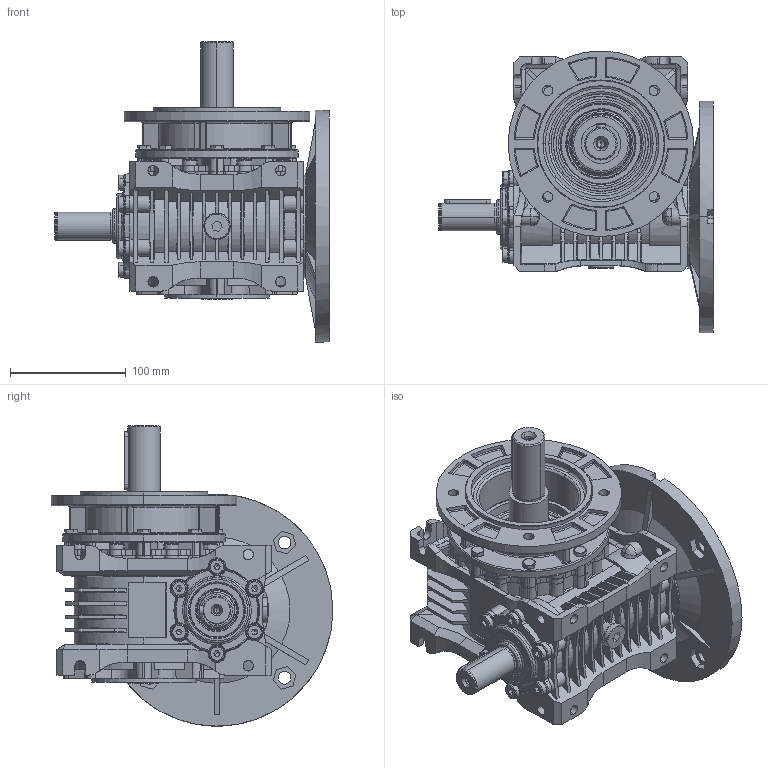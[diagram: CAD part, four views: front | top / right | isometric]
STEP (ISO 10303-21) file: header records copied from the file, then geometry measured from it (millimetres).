
FILE_DESCRIPTION (( 'STEP AP203' ), '1' );
FILE_NAME ('MR-63_200-24_K160-2_WJ-2_3D.STEP', '2023-09-26T12:02:06', ( '' ), ( '' ), 'SwSTEP 2.0', 'SolidWorks 2022', '' );
FILE_SCHEMA (( 'CONFIG_CONTROL_DESIGN' ));
Length unit declared in the file: millimetre
Products named in the file (1): MR-63_200-24_K160-2_WJ-2_3D
Bounding box: 237 x 243 x 259 mm (x, y, z)
Volume: 2595383 mm3; surface area: 457666 mm2
Topology: 1 solids, 80 shells, 4101 faces, 10109 edges, 6186 vertices
Faces by surface type: plane 1468, cone 898, cylinder 852, torus 396, bspline 334, sphere 153
Entity records: 129737 total; most frequent: CARTESIAN_POINT 35872, ORIENTED_EDGE 19910, DIRECTION 19667, EDGE_CURVE 9955, AXIS2_PLACEMENT_3D 7721, VERTEX_POINT 6164, EDGE_LOOP 4329, LINE 4225
